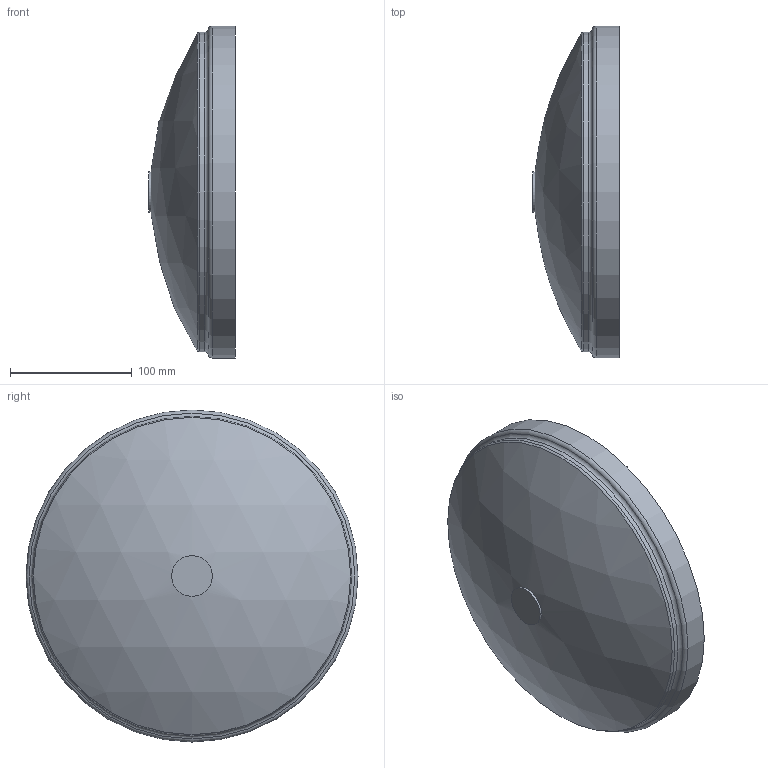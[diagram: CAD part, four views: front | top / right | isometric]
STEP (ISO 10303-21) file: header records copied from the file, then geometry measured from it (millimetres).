
FILE_DESCRIPTION(/* description */ ('VIC STRENGTHIN CAP No E496 w/Tap 1/2 inch BSPT (Concentric)','CAx-IF Rec.Pracs.---Representation and Presentation of Product Manufacturing Information (PMI)---4.0---2014-10-13'),/* implementation_level */ '2;1');
FILE_NAME(/* name */ 'C:\Users\Vjadhav\AppData\Roaming\Autodesk\ApplicationPlugins\Back Up\Victaulic_SS-StrengThin 100_Cap With Tap_No E496 (ST1)\Victaulic_SS-StrengThin 100_Cap With Tap_No E496 (ST1)_10.0x01.0 (250x25).stp',/* time_stamp */ '2020-07-07T18:47:21+05:00',/* author */ ('jheald'),/* organization */ ('Victaulic'),/* preprocessor_version */ 'ST-DEVELOPER v17.2',/* originating_system */ 'Autodesk Inventor 2019',/* authorisation */ '');
FILE_SCHEMA (('AP242_MANAGED_MODEL_BASED_3D_ENGINEERING_MIM_LF { 1 0 10303 442 1 1 4 }'));
Length unit declared in the file: inch
Products named in the file (1): E496-10.0x01.0
Bounding box: 71.12 x 273.05 x 273.05 mm (x, y, z)
Volume: 646000.9 mm3; surface area: 167438.1 mm2
Topology: 1 solids, 1 shells, 12 faces, 27 edges, 19 vertices
Faces by surface type: cylinder 4, torus 4, plane 2, sphere 2
Full cylindrical faces by diameter (mm): 33.401 x1, 254.508 x1, 262.636 x1, 273.05 x1
Entity records: 502 total; most frequent: DIRECTION 102, CARTESIAN_POINT 76, ORIENTED_EDGE 54, AXIS2_PLACEMENT_3D 49, EDGE_CURVE 27, CIRCLE 23, VERTEX_POINT 19, EDGE_LOOP 14
